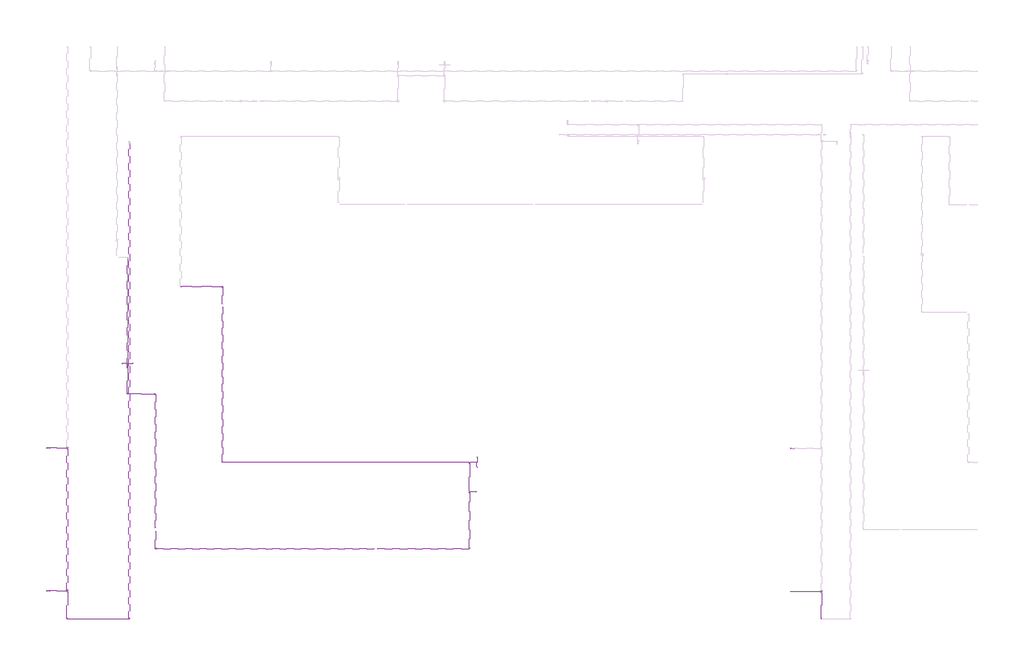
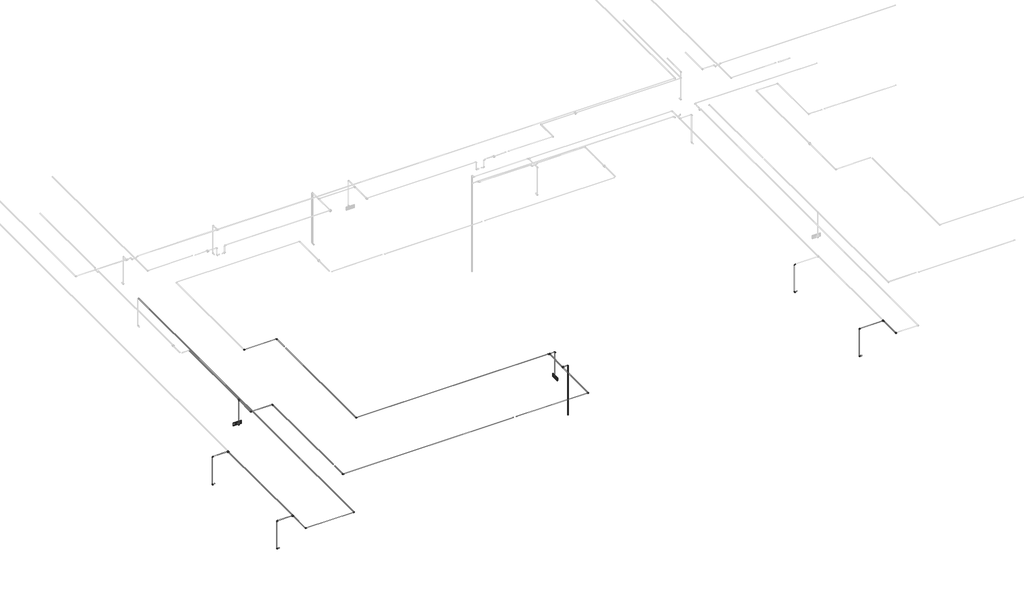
# One storey, part 1 of 13: 35 cable carrier segments, 27 cable carrier fittings, 2 alarms.
"""IFC4 building model written with IfcOpenShell, lengths in millimetres."""

from ifc_helpers import new_model, si_unit, point, frame, frame_2d, origin, place, context, project, spatial, circle_curve, trimmed, segment, composite_curve, outline, extrude, transform, mapped, element, save
from components import alarm_4b7e8fd8, cable_carrier_fitting_69f1a801, cable_carrier_fitting_8fd13dfc

model = new_model("IFC4")

# Units and contexts
model_context = context("Model", 3, world=origin())
ifc_project = project(units=[si_unit("LENGTHUNIT", "METRE", prefix="MILLI")], contexts=[model_context])

# Site, building, storey
site = spatial("IfcSite", under=ifc_project)
building = spatial("IfcBuilding", under=site)
storey = spatial("IfcBuildingStorey", under=building, Name="2 этаж", Elevation=3500.0)

# Alarms
placement = place(None, origin())
alarm_shape = alarm_4b7e8fd8(model_context)
element("IfcAlarm", 1, ObjectType="RBZ_Оповещатель_Световой_Рубеж_ОПОП1-R3(грань) : ОПОП 1-R3 \"Выход\"", at=placement, inside=storey, context=model_context, shape_type="MappedRepresentation", body=[
    mapped(alarm_shape, transform((-25412.3240021, -5342.3629895, 6000.0), x_axis=(0.0, -1.0, 0.0), y_axis=(0.0, 0.0, 1.0), z_axis=(-1.0, 0.0, 0.0))),
])
element("IfcAlarm", 2, ObjectType="RBZ_Оповещатель_Световой_Рубеж_ОПОП1-R3(грань) : ОПОП 1-R3 \"Выход\"", at=placement, inside=storey, context=model_context, shape_type="MappedRepresentation", body=[
    mapped(alarm_shape, transform((-35584.8240021, -2480.3629895, 6000.0), x_axis=(-1.0, 0.0, 0.0), y_axis=(0.0, 0.0, 1.0), z_axis=(0.0, 1.0, 0.0))),
])

# Cable carrier fittings
cable_carrier_fitting_shape = cable_carrier_fitting_69f1a801(model_context)
element("IfcCableCarrierFitting", 3, ObjectType="ADSK_Поворот_Минимальный размер : Неспецифицируемый", at=placement, inside=storey, context=model_context, shape_type="MappedRepresentation", body=[
    mapped(cable_carrier_fitting_shape, transform((-25639.8077923, -7865.3629895, 6984.65), x_axis=(1.0, 0.0, 0.0), y_axis=(0.0, 1.0, 0.0), z_axis=(0.0, 0.0, 1.0))),
])
element("IfcCableCarrierFitting", 4, ObjectType="ADSK_Поворот_Минимальный размер : Неспецифицируемый", at=placement, inside=storey, context=model_context, shape_type="MappedRepresentation", body=[
    mapped(cable_carrier_fitting_shape, transform((-25439.8077923, -6202.8629895, 6986.95), x_axis=(0.0, 0.0, 1.0), y_axis=(-1.0, 0.0, 0.0), z_axis=(0.0, -1.0, 0.0))),
])
element("IfcCableCarrierFitting", 5, ObjectType="ADSK_Поворот_Минимальный размер : Неспецифицируемый", at=placement, inside=storey, context=model_context, shape_type="MappedRepresentation", body=[
    mapped(cable_carrier_fitting_shape, transform((-25422.3240021, -5342.3629895, 6986.95), x_axis=(0.0, 0.0, 1.0), y_axis=(-1.0, 0.0, 0.0), z_axis=(0.0, -1.0, 0.0))),
])
element("IfcCableCarrierFitting", 6, ObjectType="ADSK_Поворот_Минимальный размер : Неспецифицируемый", at=placement, inside=storey, context=model_context, shape_type="MappedRepresentation", body=[
    mapped(cable_carrier_fitting_shape, transform((-34772.3240021, -7865.3629895, 6984.65), x_axis=(0.0, -1.0, 0.0), y_axis=(1.0, 0.0, 0.0), z_axis=(0.0, 0.0, 1.0))),
])
element("IfcCableCarrierFitting", 7, ObjectType="ADSK_Поворот_Минимальный размер : Неспецифицируемый", at=placement, inside=storey, context=model_context, shape_type="MappedRepresentation", body=[
    mapped(cable_carrier_fitting_shape, transform((-34772.3240021, -3358.8629895, 6984.65), x_axis=(0.0, 1.0, 0.0), y_axis=(-1.0, 0.0, 0.0), z_axis=(0.0, 0.0, 1.0))),
])
element("IfcCableCarrierFitting", 8, ObjectType="ADSK_Поворот_Минимальный размер : Неспецифицируемый", at=placement, inside=storey, context=model_context, shape_type="MappedRepresentation", body=[
    mapped(cable_carrier_fitting_shape, transform((-35584.8240021, -3358.8629895, 6984.65), x_axis=(0.0, -1.0, 0.0), y_axis=(1.0, 0.0, 0.0), z_axis=(0.0, 0.0, 1.0))),
])
element("IfcCableCarrierFitting", 9, ObjectType="ADSK_Поворот_Минимальный размер : Неспецифицируемый", at=placement, inside=storey, context=model_context, shape_type="MappedRepresentation", body=[
    mapped(cable_carrier_fitting_shape, transform((-32822.3240021, -5342.3629895, 6986.95), x_axis=(0.0, -1.0, 0.0), y_axis=(1.0, 0.0, 0.0), z_axis=(0.0, 0.0, 1.0))),
])
element("IfcCableCarrierFitting", 10, ObjectType="ADSK_Поворот_Минимальный размер : Неспецифицируемый", at=placement, inside=storey, context=model_context, shape_type="MappedRepresentation", body=[
    mapped(cable_carrier_fitting_shape, transform((-32822.3240021, -233.8629895, 6986.95), x_axis=(0.0, 1.0, 0.0), y_axis=(-1.0, 0.0, 0.0), z_axis=(0.0, 0.0, 1.0))),
])
element("IfcCableCarrierFitting", 11, ObjectType="ADSK_Поворот_Минимальный размер : Неспецифицируемый", at=placement, inside=storey, context=model_context, shape_type="MappedRepresentation", body=[
    mapped(cable_carrier_fitting_shape, transform((-34037.3240021, -233.8629895, 6986.95), x_axis=(0.0, -1.0, 0.0), y_axis=(1.0, 0.0, 0.0), z_axis=(0.0, 0.0, 1.0))),
])
element("IfcCableCarrierFitting", 12, ObjectType="ADSK_Поворот_Минимальный размер : Неспецифицируемый", at=placement, inside=storey, context=model_context, shape_type="MappedRepresentation", body=[
    mapped(cable_carrier_fitting_shape, transform((-37337.3240021, -9910.3629895, 6990.0), x_axis=(0.0, -1.0, 0.0), y_axis=(1.0, 0.0, 0.0), z_axis=(0.0, 0.0, 1.0))),
])
element("IfcCableCarrierFitting", 13, ObjectType="ADSK_Поворот_Минимальный размер : Неспецифицируемый", at=placement, inside=storey, context=model_context, shape_type="MappedRepresentation", body=[
    mapped(cable_carrier_fitting_shape, transform((-15397.3240021, -9910.3629895, 6990.0), x_axis=(0.0, -1.0, 0.0), y_axis=(1.0, 0.0, 0.0), z_axis=(0.0, 0.0, 1.0))),
])
element("IfcCableCarrierFitting", 14, ObjectType="ADSK_Поворот_Минимальный размер : Неспецифицируемый", at=placement, inside=storey, context=model_context, shape_type="MappedRepresentation", body=[
    mapped(cable_carrier_fitting_shape, transform((-16289.5238077, -9110.3629895, 5897.4861504), x_axis=(-1.0, 0.0, 0.0), y_axis=(0.0, 0.0, 1.0), z_axis=(0.0, 1.0, 0.0))),
])
element("IfcCableCarrierFitting", 15, ObjectType="ADSK_Поворот_Минимальный размер : Неспецифицируемый", at=placement, inside=storey, context=model_context, shape_type="MappedRepresentation", body=[
    mapped(cable_carrier_fitting_shape, transform((-16289.5238077, -9110.3629895, 6990.0), x_axis=(0.0, 0.0, 1.0), y_axis=(1.0, 0.0, 0.0), z_axis=(0.0, 1.0, 0.0))),
])
element("IfcCableCarrierFitting", 16, ObjectType="ADSK_Поворот_Минимальный размер : Неспецифицируемый", at=placement, inside=storey, context=model_context, shape_type="MappedRepresentation", body=[
    mapped(cable_carrier_fitting_shape, transform((-16289.5238077, -4942.8629895, 5897.4861504), x_axis=(-1.0, 0.0, 0.0), y_axis=(0.0, 0.0, 1.0), z_axis=(0.0, 1.0, 0.0))),
])
element("IfcCableCarrierFitting", 17, ObjectType="ADSK_Поворот_Минимальный размер : Неспецифицируемый", at=placement, inside=storey, context=model_context, shape_type="MappedRepresentation", body=[
    mapped(cable_carrier_fitting_shape, transform((-16289.5238077, -4942.8629895, 6990.0), x_axis=(0.0, 0.0, 1.0), y_axis=(1.0, 0.0, 0.0), z_axis=(0.0, 1.0, 0.0))),
])
element("IfcCableCarrierFitting", 18, ObjectType="ADSK_Поворот_Минимальный размер : Неспецифицируемый", at=placement, inside=storey, context=model_context, shape_type="MappedRepresentation", body=[
    mapped(cable_carrier_fitting_shape, transform((-37929.5238077, -9090.3629895, 5897.4861504), x_axis=(-1.0, 0.0, 0.0), y_axis=(0.0, 0.0, 1.0), z_axis=(0.0, 1.0, 0.0))),
])
element("IfcCableCarrierFitting", 19, ObjectType="ADSK_Поворот_Минимальный размер : Неспецифицируемый", at=placement, inside=storey, context=model_context, shape_type="MappedRepresentation", body=[
    mapped(cable_carrier_fitting_shape, transform((-37929.5238077, -9090.3629895, 6990.0), x_axis=(0.0, 0.0, 1.0), y_axis=(1.0, 0.0, 0.0), z_axis=(0.0, 1.0, 0.0))),
])
element("IfcCableCarrierFitting", 20, ObjectType="ADSK_Поворот_Минимальный размер : Неспецифицируемый", at=placement, inside=storey, context=model_context, shape_type="MappedRepresentation", body=[
    mapped(cable_carrier_fitting_shape, transform((-37929.5238077, -4930.3629895, 5897.4861504), x_axis=(-1.0, 0.0, 0.0), y_axis=(0.0, 0.0, 1.0), z_axis=(0.0, 1.0, 0.0))),
])
element("IfcCableCarrierFitting", 21, ObjectType="ADSK_Поворот_Минимальный размер : Неспецифицируемый", at=placement, inside=storey, context=model_context, shape_type="MappedRepresentation", body=[
    mapped(cable_carrier_fitting_shape, transform((-37929.5238077, -4930.3629895, 6990.0), x_axis=(0.0, 0.0, 1.0), y_axis=(1.0, 0.0, 0.0), z_axis=(0.0, 1.0, 0.0))),
])
element("IfcCableCarrierFitting", 22, ObjectType="ADSK_Поворот_Минимальный размер : Неспецифицируемый", at=placement, inside=storey, context=model_context, shape_type="MappedRepresentation", body=[
    mapped(cable_carrier_fitting_shape, transform((-35532.7240021, -9910.3629895, 6990.0), x_axis=(1.0, 0.0, 0.0), y_axis=(0.0, 1.0, 0.0), z_axis=(0.0, 0.0, 1.0))),
])
element("IfcCableCarrierFitting", 23, ObjectType="ADSK_Поворот_Минимальный размер : Неспецифицируемый", at=placement, inside=storey, context=model_context, shape_type="MappedRepresentation", body=[
    mapped(cable_carrier_fitting_shape, transform((-35584.8240021, -2577.5627951, 6000.0), x_axis=(0.0, -1.0, 0.0), y_axis=(0.0, 0.0, 1.0), z_axis=(-1.0, 0.0, 0.0))),
])
cable_carrier_fitting_2_shape = cable_carrier_fitting_8fd13dfc(model_context)
element("IfcCableCarrierFitting", 24, ObjectType="ADSK_Тройник : ПВХ", at=placement, inside=storey, context=model_context, shape_type="MappedRepresentation", body=[
    mapped(cable_carrier_fitting_2_shape, transform((-25639.8077923, -6202.8629895, 6986.95), x_axis=(0.0, 1.0, 0.0), y_axis=(-1.0, 0.0, 0.0), z_axis=(0.0, 0.0, 1.0))),
])
element("IfcCableCarrierFitting", 25, ObjectType="ADSK_Тройник : ПВХ", at=placement, inside=storey, context=model_context, shape_type="MappedRepresentation", body=[
    mapped(cable_carrier_fitting_2_shape, transform((-25639.8077923, -5342.3629895, 6986.95), x_axis=(1.0, 0.0, 0.0), y_axis=(0.0, 1.0, 0.0), z_axis=(0.0, 0.0, 1.0))),
])
element("IfcCableCarrierFitting", 26, ObjectType="ADSK_Тройник : ПВХ", at=placement, inside=storey, context=model_context, shape_type="MappedRepresentation", body=[
    mapped(cable_carrier_fitting_2_shape, transform((-15397.3240021, -9110.3629895, 6990.0), x_axis=(0.0, -1.0, 0.0), y_axis=(1.0, 0.0, 0.0), z_axis=(0.0, 0.0, 1.0))),
])
element("IfcCableCarrierFitting", 27, ObjectType="ADSK_Тройник : ПВХ", at=placement, inside=storey, context=model_context, shape_type="MappedRepresentation", body=[
    mapped(cable_carrier_fitting_2_shape, transform((-37337.3240021, -9090.3629895, 6990.0), x_axis=(0.0, -1.0, 0.0), y_axis=(1.0, 0.0, 0.0), z_axis=(0.0, 0.0, 1.0))),
])
element("IfcCableCarrierFitting", 28, ObjectType="ADSK_Тройник : ПВХ", at=placement, inside=storey, context=model_context, shape_type="MappedRepresentation", body=[
    mapped(cable_carrier_fitting_2_shape, transform((-37337.3240021, -4930.3629895, 6990.0), x_axis=(0.0, -1.0, 0.0), y_axis=(1.0, 0.0, 0.0), z_axis=(0.0, 0.0, 1.0))),
])
element("IfcCableCarrierFitting", 29, ObjectType="ADSK_Тройник : ПВХ", at=placement, inside=storey, context=model_context, shape_type="MappedRepresentation", body=[
    mapped(cable_carrier_fitting_2_shape, transform((-35584.8240021, -2577.5627951, 6984.65), x_axis=(0.0, 1.0, 0.0), y_axis=(0.0, 0.0, 1.0), z_axis=(1.0, 0.0, 0.0))),
])

# Cable carrier segments
element("IfcCableCarrierSegment", 30, ObjectType="Гофрированная труба", at=placement, inside=storey, context=model_context, shape_type="SweptSolid", body=[
    extrude(outline(composite_curve([segment(trimmed(circle_curve(frame_2d((-6202.8629895, 6986.95)), 10.0), [point((-6192.8629895, 6986.95))], [point((-6202.8629895, 6976.95))], False, "CARTESIAN"), True, "CONTINUOUS"), segment(trimmed(circle_curve(frame_2d((-6202.8629895, 6986.95)), 10.0), [point((-6202.8629895, 6976.95))], [point((-6212.8629895, 6986.95))], False, "CARTESIAN"), True, "CONTINUOUS"), segment(trimmed(circle_curve(frame_2d((-6202.8629895, 6986.95)), 10.0), [point((-6212.8629895, 6986.95))], [point((-6202.8629895, 6996.95))], False, "CARTESIAN"), True, "CONTINUOUS"), segment(trimmed(circle_curve(frame_2d((-6202.8629895, 6986.95)), 10.0), [point((-6202.8629895, 6996.95))], [point((-6192.8629895, 6986.95))], False, "CARTESIAN"), True, "CONTINUOUS")], self_intersect=False)), frame((-25609.8077923, 0.0, 0.0), z_axis=(1.0, 0.0, 0.0), x_axis=(0.0, 1.0, 0.0)), (0.0, 0.0, 1.0), 149.0),
])
element("IfcCableCarrierSegment", 31, ObjectType="Гофрированная труба", at=placement, inside=storey, context=model_context, shape_type="SweptSolid", body=[
    extrude(outline(composite_curve([segment(trimmed(circle_curve(frame_2d((-25439.8077923, -6202.8629895)), 10.0), [point((-25449.8077923, -6202.8629895))], [point((-25439.8077923, -6192.8629895))], False, "CARTESIAN"), True, "CONTINUOUS"), segment(trimmed(circle_curve(frame_2d((-25439.8077923, -6202.8629895)), 10.0), [point((-25439.8077923, -6192.8629895))], [point((-25429.8077923, -6202.8629895))], False, "CARTESIAN"), True, "CONTINUOUS"), segment(trimmed(circle_curve(frame_2d((-25439.8077923, -6202.8629895)), 10.0), [point((-25429.8077923, -6202.8629895))], [point((-25439.8077923, -6212.8629895))], False, "CARTESIAN"), True, "CONTINUOUS"), segment(trimmed(circle_curve(frame_2d((-25439.8077923, -6202.8629895)), 10.0), [point((-25439.8077923, -6212.8629895))], [point((-25449.8077923, -6202.8629895))], False, "CARTESIAN"), True, "CONTINUOUS")], self_intersect=False)), frame((0.0, 0.0, 5044.0), z_axis=(0.0, 0.0, 1.0), x_axis=(1.0, 0.0, 0.0)), (0.0, 0.0, 1.0), 1921.95),
])
element("IfcCableCarrierSegment", 32, ObjectType="Гофрированная труба", at=placement, inside=storey, context=model_context, shape_type="SweptSolid", body=[
    extrude(outline(composite_curve([segment(trimmed(circle_curve(frame_2d((-7865.3629895, 6984.65)), 10.0), [point((-7875.3629895, 6984.65))], [point((-7865.3629895, 6994.65))], False, "CARTESIAN"), True, "CONTINUOUS"), segment(trimmed(circle_curve(frame_2d((-7865.3629895, 6984.65)), 10.0), [point((-7865.3629895, 6994.65))], [point((-7855.3629895, 6984.65))], False, "CARTESIAN"), True, "CONTINUOUS"), segment(trimmed(circle_curve(frame_2d((-7865.3629895, 6984.65)), 10.0), [point((-7855.3629895, 6984.65))], [point((-7865.3629895, 6974.65))], False, "CARTESIAN"), True, "CONTINUOUS"), segment(trimmed(circle_curve(frame_2d((-7865.3629895, 6984.65)), 10.0), [point((-7865.3629895, 6974.65))], [point((-7875.3629895, 6984.65))], False, "CARTESIAN"), True, "CONTINUOUS")], self_intersect=False)), frame((-28325.8240021, 0.0, 0.0), z_axis=(1.0, 0.0, 0.0), x_axis=(0.0, 1.0, 0.0)), (0.0, 0.0, 1.0), 2665.0162098),
])
element("IfcCableCarrierSegment", 33, ObjectType="Гофрированная труба", at=placement, inside=storey, context=model_context, shape_type="SweptSolid", body=[
    extrude(outline(composite_curve([segment(trimmed(circle_curve(frame_2d((6986.95, -25639.8077923)), 10.0), [point((6986.95, -25629.8077923))], [point((6996.95, -25639.8077923))], False, "CARTESIAN"), True, "CONTINUOUS"), segment(trimmed(circle_curve(frame_2d((6986.95, -25639.8077923)), 10.0), [point((6996.95, -25639.8077923))], [point((6986.95, -25649.8077923))], False, "CARTESIAN"), True, "CONTINUOUS"), segment(trimmed(circle_curve(frame_2d((6986.95, -25639.8077923)), 10.0), [point((6986.95, -25649.8077923))], [point((6976.95, -25639.8077923))], False, "CARTESIAN"), True, "CONTINUOUS"), segment(trimmed(circle_curve(frame_2d((6986.95, -25639.8077923)), 10.0), [point((6976.95, -25639.8077923))], [point((6986.95, -25629.8077923))], False, "CARTESIAN"), True, "CONTINUOUS")], self_intersect=False)), frame((0.0, -6172.8629895, 0.0), z_axis=(0.0, 1.0, 0.0), x_axis=(0.0, 0.0, 1.0)), (0.0, 0.0, 1.0), 800.5),
])
element("IfcCableCarrierSegment", 34, ObjectType="Гофрированная труба", at=placement, inside=storey, context=model_context, shape_type="SweptSolid", body=[
    extrude(outline(composite_curve([segment(trimmed(circle_curve(frame_2d((0.0, 10.0)), 10.0), [point((0.0, 20.0))], [point((10.0, 10.0))], False, "CARTESIAN"), True, "CONTINUOUS"), segment(trimmed(circle_curve(frame_2d((0.0, 10.0)), 10.0), [point((10.0, 10.0))], [point((0.0, 0.0))], False, "CARTESIAN"), True, "CONTINUOUS"), segment(trimmed(circle_curve(frame_2d((0.0, 10.0)), 10.0), [point((0.0, 0.0))], [point((-10.0, 10.0))], False, "CARTESIAN"), True, "CONTINUOUS"), segment(trimmed(circle_curve(frame_2d((0.0, 10.0)), 10.0), [point((-10.0, 10.0))], [point((0.0, 20.0))], False, "CARTESIAN"), True, "CONTINUOUS")], self_intersect=False)), frame((-25649.8077923, -7844.3629895, 6984.65), z_axis=(0.0, 0.9999989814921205, 0.0014272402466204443), x_axis=(0.0, -0.0014272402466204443, 0.9999989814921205)), (0.0, 0.0, 1.0), 1611.5016413),
])
element("IfcCableCarrierSegment", 35, ObjectType="Гофрированная труба", at=placement, inside=storey, context=model_context, shape_type="SweptSolid", body=[
    extrude(outline(composite_curve([segment(trimmed(circle_curve(frame_2d((-5342.3629895, 6986.95)), 10.0), [point((-5352.3629895, 6986.95))], [point((-5342.3629895, 6996.95))], False, "CARTESIAN"), True, "CONTINUOUS"), segment(trimmed(circle_curve(frame_2d((-5342.3629895, 6986.95)), 10.0), [point((-5342.3629895, 6996.95))], [point((-5332.3629895, 6986.95))], False, "CARTESIAN"), True, "CONTINUOUS"), segment(trimmed(circle_curve(frame_2d((-5342.3629895, 6986.95)), 10.0), [point((-5332.3629895, 6986.95))], [point((-5342.3629895, 6976.95))], False, "CARTESIAN"), True, "CONTINUOUS"), segment(trimmed(circle_curve(frame_2d((-5342.3629895, 6986.95)), 10.0), [point((-5342.3629895, 6976.95))], [point((-5352.3629895, 6986.95))], False, "CARTESIAN"), True, "CONTINUOUS")], self_intersect=False)), frame((-32801.3240021, 0.0, 0.0), z_axis=(1.0, 0.0, 0.0), x_axis=(0.0, 1.0, 0.0)), (0.0, 0.0, 1.0), 7131.5162098),
])
element("IfcCableCarrierSegment", 36, ObjectType="Гофрированная труба", at=placement, inside=storey, context=model_context, shape_type="SweptSolid", body=[
    extrude(outline(composite_curve([segment(trimmed(circle_curve(frame_2d((-25422.3240021, -5342.3629895)), 10.0), [point((-25432.3240021, -5342.3629895))], [point((-25422.3240021, -5332.3629895))], False, "CARTESIAN"), True, "CONTINUOUS"), segment(trimmed(circle_curve(frame_2d((-25422.3240021, -5342.3629895)), 10.0), [point((-25422.3240021, -5332.3629895))], [point((-25412.3240021, -5342.3629895))], False, "CARTESIAN"), True, "CONTINUOUS"), segment(trimmed(circle_curve(frame_2d((-25422.3240021, -5342.3629895)), 10.0), [point((-25412.3240021, -5342.3629895))], [point((-25422.3240021, -5352.3629895))], False, "CARTESIAN"), True, "CONTINUOUS"), segment(trimmed(circle_curve(frame_2d((-25422.3240021, -5342.3629895)), 10.0), [point((-25422.3240021, -5352.3629895))], [point((-25432.3240021, -5342.3629895))], False, "CARTESIAN"), True, "CONTINUOUS")], self_intersect=False)), frame((0.0, 0.0, 6050.0), z_axis=(0.0, 0.0, 1.0), x_axis=(1.0, 0.0, 0.0)), (0.0, 0.0, 1.0), 915.95),
])
element("IfcCableCarrierSegment", 37, ObjectType="Гофрированная труба", at=placement, inside=storey, context=model_context, shape_type="SweptSolid", body=[
    extrude(outline(composite_curve([segment(trimmed(circle_curve(frame_2d((-5342.3629895, 6986.95)), 10.0), [point((-5332.3629895, 6986.95))], [point((-5342.3629895, 6976.95))], False, "CARTESIAN"), True, "CONTINUOUS"), segment(trimmed(circle_curve(frame_2d((-5342.3629895, 6986.95)), 10.0), [point((-5342.3629895, 6976.95))], [point((-5352.3629895, 6986.95))], False, "CARTESIAN"), True, "CONTINUOUS"), segment(trimmed(circle_curve(frame_2d((-5342.3629895, 6986.95)), 10.0), [point((-5352.3629895, 6986.95))], [point((-5342.3629895, 6996.95))], False, "CARTESIAN"), True, "CONTINUOUS"), segment(trimmed(circle_curve(frame_2d((-5342.3629895, 6986.95)), 10.0), [point((-5342.3629895, 6996.95))], [point((-5332.3629895, 6986.95))], False, "CARTESIAN"), True, "CONTINUOUS")], self_intersect=False)), frame((-25609.8077923, 0.0, 0.0), z_axis=(1.0, 0.0, 0.0), x_axis=(0.0, 1.0, 0.0)), (0.0, 0.0, 1.0), 166.4837902),
])
element("IfcCableCarrierSegment", 38, ObjectType="Гофрированная труба", at=placement, inside=storey, context=model_context, shape_type="SweptSolid", body=[
    extrude(outline(composite_curve([segment(trimmed(circle_curve(frame_2d((-7865.3629895, 6984.65)), 10.0), [point((-7855.3629895, 6984.65))], [point((-7865.3629895, 6974.65))], False, "CARTESIAN"), True, "CONTINUOUS"), segment(trimmed(circle_curve(frame_2d((-7865.3629895, 6984.65)), 10.0), [point((-7865.3629895, 6974.65))], [point((-7875.3629895, 6984.65))], False, "CARTESIAN"), True, "CONTINUOUS"), segment(trimmed(circle_curve(frame_2d((-7865.3629895, 6984.65)), 10.0), [point((-7875.3629895, 6984.65))], [point((-7865.3629895, 6994.65))], False, "CARTESIAN"), True, "CONTINUOUS"), segment(trimmed(circle_curve(frame_2d((-7865.3629895, 6984.65)), 10.0), [point((-7865.3629895, 6994.65))], [point((-7855.3629895, 6984.65))], False, "CARTESIAN"), True, "CONTINUOUS")], self_intersect=False)), frame((-34751.3240021, 0.0, 0.0), z_axis=(1.0, 0.0, 0.0), x_axis=(0.0, 1.0, 0.0)), (0.0, 0.0, 1.0), 6332.5),
])
element("IfcCableCarrierSegment", 39, ObjectType="Гофрированная труба", at=placement, inside=storey, context=model_context, shape_type="SweptSolid", body=[
    extrude(outline(composite_curve([segment(trimmed(circle_curve(frame_2d((6984.65, -34772.3240021)), 10.0), [point((6984.65, -34762.3240021))], [point((6994.65, -34772.3240021))], False, "CARTESIAN"), True, "CONTINUOUS"), segment(trimmed(circle_curve(frame_2d((6984.65, -34772.3240021)), 10.0), [point((6994.65, -34772.3240021))], [point((6984.65, -34782.3240021))], False, "CARTESIAN"), True, "CONTINUOUS"), segment(trimmed(circle_curve(frame_2d((6984.65, -34772.3240021)), 10.0), [point((6984.65, -34782.3240021))], [point((6974.65, -34772.3240021))], False, "CARTESIAN"), True, "CONTINUOUS"), segment(trimmed(circle_curve(frame_2d((6984.65, -34772.3240021)), 10.0), [point((6974.65, -34772.3240021))], [point((6984.65, -34762.3240021))], False, "CARTESIAN"), True, "CONTINUOUS")], self_intersect=False)), frame((0.0, -7844.3629895, 0.0), z_axis=(0.0, 1.0, 0.0), x_axis=(0.0, 0.0, 1.0)), (0.0, 0.0, 1.0), 492.5),
])
element("IfcCableCarrierSegment", 40, ObjectType="Гофрированная труба", at=placement, inside=storey, context=model_context, shape_type="SweptSolid", body=[
    extrude(outline(composite_curve([segment(trimmed(circle_curve(frame_2d((6984.65, -34772.3240021)), 10.0), [point((6984.65, -34762.3240021))], [point((6994.65, -34772.3240021))], False, "CARTESIAN"), True, "CONTINUOUS"), segment(trimmed(circle_curve(frame_2d((6984.65, -34772.3240021)), 10.0), [point((6994.65, -34772.3240021))], [point((6984.65, -34782.3240021))], False, "CARTESIAN"), True, "CONTINUOUS"), segment(trimmed(circle_curve(frame_2d((6984.65, -34772.3240021)), 10.0), [point((6984.65, -34782.3240021))], [point((6974.65, -34772.3240021))], False, "CARTESIAN"), True, "CONTINUOUS"), segment(trimmed(circle_curve(frame_2d((6984.65, -34772.3240021)), 10.0), [point((6974.65, -34772.3240021))], [point((6984.65, -34762.3240021))], False, "CARTESIAN"), True, "CONTINUOUS")], self_intersect=False)), frame((0.0, -7258.8629895, 0.0), z_axis=(0.0, 1.0, 0.0), x_axis=(0.0, 0.0, 1.0)), (0.0, 0.0, 1.0), 3879.0),
])
element("IfcCableCarrierSegment", 41, ObjectType="Гофрированная труба", at=placement, inside=storey, context=model_context, shape_type="SweptSolid", body=[
    extrude(outline(composite_curve([segment(trimmed(circle_curve(frame_2d((-3358.8629895, 6984.65)), 10.0), [point((-3348.8629895, 6984.65))], [point((-3358.8629895, 6974.65))], False, "CARTESIAN"), True, "CONTINUOUS"), segment(trimmed(circle_curve(frame_2d((-3358.8629895, 6984.65)), 10.0), [point((-3358.8629895, 6974.65))], [point((-3368.8629895, 6984.65))], False, "CARTESIAN"), True, "CONTINUOUS"), segment(trimmed(circle_curve(frame_2d((-3358.8629895, 6984.65)), 10.0), [point((-3368.8629895, 6984.65))], [point((-3358.8629895, 6994.65))], False, "CARTESIAN"), True, "CONTINUOUS"), segment(trimmed(circle_curve(frame_2d((-3358.8629895, 6984.65)), 10.0), [point((-3358.8629895, 6994.65))], [point((-3348.8629895, 6984.65))], False, "CARTESIAN"), True, "CONTINUOUS")], self_intersect=False)), frame((-35563.8240021, 0.0, 0.0), z_axis=(1.0, 0.0, 0.0), x_axis=(0.0, 1.0, 0.0)), (0.0, 0.0, 1.0), 770.5),
])
element("IfcCableCarrierSegment", 42, ObjectType="Гофрированная труба", at=placement, inside=storey, context=model_context, shape_type="SweptSolid", body=[
    extrude(outline(composite_curve([segment(trimmed(circle_curve(frame_2d((6986.95, -32822.3240021)), 10.0), [point((6986.95, -32832.3240021))], [point((6976.95, -32822.3240021))], False, "CARTESIAN"), True, "CONTINUOUS"), segment(trimmed(circle_curve(frame_2d((6986.95, -32822.3240021)), 10.0), [point((6976.95, -32822.3240021))], [point((6986.95, -32812.3240021))], False, "CARTESIAN"), True, "CONTINUOUS"), segment(trimmed(circle_curve(frame_2d((6986.95, -32822.3240021)), 10.0), [point((6986.95, -32812.3240021))], [point((6996.95, -32822.3240021))], False, "CARTESIAN"), True, "CONTINUOUS"), segment(trimmed(circle_curve(frame_2d((6986.95, -32822.3240021)), 10.0), [point((6996.95, -32822.3240021))], [point((6986.95, -32832.3240021))], False, "CARTESIAN"), True, "CONTINUOUS")], self_intersect=False)), frame((0.0, -5321.3629895, 0.0), z_axis=(0.0, 1.0, 0.0), x_axis=(0.0, 0.0, 1.0)), (0.0, 0.0, 1.0), 4494.5),
])
element("IfcCableCarrierSegment", 43, ObjectType="Гофрированная труба", at=placement, inside=storey, context=model_context, shape_type="SweptSolid", body=[
    extrude(outline(composite_curve([segment(trimmed(circle_curve(frame_2d((6986.95, -32822.3240021)), 10.0), [point((6986.95, -32812.3240021))], [point((6996.95, -32822.3240021))], False, "CARTESIAN"), True, "CONTINUOUS"), segment(trimmed(circle_curve(frame_2d((6986.95, -32822.3240021)), 10.0), [point((6996.95, -32822.3240021))], [point((6986.95, -32832.3240021))], False, "CARTESIAN"), True, "CONTINUOUS"), segment(trimmed(circle_curve(frame_2d((6986.95, -32822.3240021)), 10.0), [point((6986.95, -32832.3240021))], [point((6976.95, -32822.3240021))], False, "CARTESIAN"), True, "CONTINUOUS"), segment(trimmed(circle_curve(frame_2d((6986.95, -32822.3240021)), 10.0), [point((6976.95, -32822.3240021))], [point((6986.95, -32812.3240021))], False, "CARTESIAN"), True, "CONTINUOUS")], self_intersect=False)), frame((0.0, -733.8629895, 0.0), z_axis=(0.0, 1.0, 0.0), x_axis=(0.0, 0.0, 1.0)), (0.0, 0.0, 1.0), 479.0),
])
element("IfcCableCarrierSegment", 44, ObjectType="Гофрированная труба", at=placement, inside=storey, context=model_context, shape_type="SweptSolid", body=[
    extrude(outline(composite_curve([segment(trimmed(circle_curve(frame_2d((-233.8629895, 6986.95)), 10.0), [point((-223.8629895, 6986.95))], [point((-233.8629895, 6976.95))], False, "CARTESIAN"), True, "CONTINUOUS"), segment(trimmed(circle_curve(frame_2d((-233.8629895, 6986.95)), 10.0), [point((-233.8629895, 6976.95))], [point((-243.8629895, 6986.95))], False, "CARTESIAN"), True, "CONTINUOUS"), segment(trimmed(circle_curve(frame_2d((-233.8629895, 6986.95)), 10.0), [point((-243.8629895, 6986.95))], [point((-233.8629895, 6996.95))], False, "CARTESIAN"), True, "CONTINUOUS"), segment(trimmed(circle_curve(frame_2d((-233.8629895, 6986.95)), 10.0), [point((-233.8629895, 6996.95))], [point((-223.8629895, 6986.95))], False, "CARTESIAN"), True, "CONTINUOUS")], self_intersect=False)), frame((-34016.3240021, 0.0, 0.0), z_axis=(1.0, 0.0, 0.0), x_axis=(0.0, 1.0, 0.0)), (0.0, 0.0, 1.0), 1173.0),
])
element("IfcCableCarrierSegment", 45, ObjectType="Гофрированная труба", at=placement, inside=storey, context=model_context, shape_type="SweptSolid", body=[
    extrude(outline(composite_curve([segment(trimmed(circle_curve(frame_2d((-9910.3629895, 6990.0)), 10.0), [point((-9920.3629895, 6990.0))], [point((-9910.3629895, 7000.0))], False, "CARTESIAN"), True, "CONTINUOUS"), segment(trimmed(circle_curve(frame_2d((-9910.3629895, 6990.0)), 10.0), [point((-9910.3629895, 7000.0))], [point((-9900.3629895, 6990.0))], False, "CARTESIAN"), True, "CONTINUOUS"), segment(trimmed(circle_curve(frame_2d((-9910.3629895, 6990.0)), 10.0), [point((-9900.3629895, 6990.0))], [point((-9910.3629895, 6980.0))], False, "CARTESIAN"), True, "CONTINUOUS"), segment(trimmed(circle_curve(frame_2d((-9910.3629895, 6990.0)), 10.0), [point((-9910.3629895, 6980.0))], [point((-9920.3629895, 6990.0))], False, "CARTESIAN"), True, "CONTINUOUS")], self_intersect=False)), frame((-37316.3240021, 0.0, 0.0), z_axis=(1.0, 0.0, 0.0), x_axis=(0.0, 1.0, 0.0)), (0.0, 0.0, 1.0), 1762.6),
])
element("IfcCableCarrierSegment", 46, ObjectType="Гофрированная труба", at=placement, inside=storey, context=model_context, shape_type="SweptSolid", body=[
    extrude(outline(composite_curve([segment(trimmed(circle_curve(frame_2d((6990.0, -35532.7240021)), 10.0), [point((6990.0, -35522.7240021))], [point((7000.0, -35532.7240021))], False, "CARTESIAN"), True, "CONTINUOUS"), segment(trimmed(circle_curve(frame_2d((6990.0, -35532.7240021)), 10.0), [point((7000.0, -35532.7240021))], [point((6990.0, -35542.7240021))], False, "CARTESIAN"), True, "CONTINUOUS"), segment(trimmed(circle_curve(frame_2d((6990.0, -35532.7240021)), 10.0), [point((6990.0, -35542.7240021))], [point((6980.0, -35532.7240021))], False, "CARTESIAN"), True, "CONTINUOUS"), segment(trimmed(circle_curve(frame_2d((6990.0, -35532.7240021)), 10.0), [point((6980.0, -35532.7240021))], [point((6990.0, -35522.7240021))], False, "CARTESIAN"), True, "CONTINUOUS")], self_intersect=False)), frame((0.0, -9889.3629895, 0.0), z_axis=(0.0, 1.0, 0.0), x_axis=(0.0, 0.0, 1.0)), (0.0, 0.0, 1.0), 13865.1998056),
])
element("IfcCableCarrierSegment", 47, ObjectType="Гофрированная труба", at=placement, inside=storey, context=model_context, shape_type="SweptSolid", body=[
    extrude(outline(composite_curve([segment(trimmed(circle_curve(frame_2d((-9110.3629895, 6990.0)), 10.0), [point((-9100.3629895, 6990.0))], [point((-9110.3629895, 6980.0))], False, "CARTESIAN"), True, "CONTINUOUS"), segment(trimmed(circle_curve(frame_2d((-9110.3629895, 6990.0)), 10.0), [point((-9110.3629895, 6980.0))], [point((-9120.3629895, 6990.0))], False, "CARTESIAN"), True, "CONTINUOUS"), segment(trimmed(circle_curve(frame_2d((-9110.3629895, 6990.0)), 10.0), [point((-9120.3629895, 6990.0))], [point((-9110.3629895, 7000.0))], False, "CARTESIAN"), True, "CONTINUOUS"), segment(trimmed(circle_curve(frame_2d((-9110.3629895, 6990.0)), 10.0), [point((-9110.3629895, 7000.0))], [point((-9100.3629895, 6990.0))], False, "CARTESIAN"), True, "CONTINUOUS")], self_intersect=False)), frame((-16268.5238077, 0.0, 0.0), z_axis=(1.0, 0.0, 0.0), x_axis=(0.0, 1.0, 0.0)), (0.0, 0.0, 1.0), 841.1998056),
])
element("IfcCableCarrierSegment", 48, ObjectType="Гофрированная труба", at=placement, inside=storey, context=model_context, shape_type="SweptSolid", body=[
    extrude(outline(composite_curve([segment(trimmed(circle_curve(frame_2d((-9110.3629895, 5897.4861504)), 10.0), [point((-9100.3629895, 5897.4861504))], [point((-9110.3629895, 5887.4861504))], False, "CARTESIAN"), True, "CONTINUOUS"), segment(trimmed(circle_curve(frame_2d((-9110.3629895, 5897.4861504)), 10.0), [point((-9110.3629895, 5887.4861504))], [point((-9120.3629895, 5897.4861504))], False, "CARTESIAN"), True, "CONTINUOUS"), segment(trimmed(circle_curve(frame_2d((-9110.3629895, 5897.4861504)), 10.0), [point((-9120.3629895, 5897.4861504))], [point((-9110.3629895, 5907.4861504))], False, "CARTESIAN"), True, "CONTINUOUS"), segment(trimmed(circle_curve(frame_2d((-9110.3629895, 5897.4861504)), 10.0), [point((-9110.3629895, 5907.4861504))], [point((-9100.3629895, 5897.4861504))], False, "CARTESIAN"), True, "CONTINUOUS")], self_intersect=False)), frame((-16268.5238077, 0.0, 0.0), z_axis=(1.0, 0.0, 0.0), x_axis=(0.0, 1.0, 0.0)), (0.0, 0.0, 1.0), 76.1998056),
])
element("IfcCableCarrierSegment", 49, ObjectType="Гофрированная труба", at=placement, inside=storey, context=model_context, shape_type="SweptSolid", body=[
    extrude(outline(composite_curve([segment(trimmed(circle_curve(frame_2d((-16289.5238077, -9110.3629895)), 10.0), [point((-16299.5238077, -9110.3629895))], [point((-16289.5238077, -9100.3629895))], False, "CARTESIAN"), True, "CONTINUOUS"), segment(trimmed(circle_curve(frame_2d((-16289.5238077, -9110.3629895)), 10.0), [point((-16289.5238077, -9100.3629895))], [point((-16279.5238077, -9110.3629895))], False, "CARTESIAN"), True, "CONTINUOUS"), segment(trimmed(circle_curve(frame_2d((-16289.5238077, -9110.3629895)), 10.0), [point((-16279.5238077, -9110.3629895))], [point((-16289.5238077, -9120.3629895))], False, "CARTESIAN"), True, "CONTINUOUS"), segment(trimmed(circle_curve(frame_2d((-16289.5238077, -9110.3629895)), 10.0), [point((-16289.5238077, -9120.3629895))], [point((-16299.5238077, -9110.3629895))], False, "CARTESIAN"), True, "CONTINUOUS")], self_intersect=False)), frame((0.0, 0.0, 5918.4861504), z_axis=(0.0, 0.0, 1.0), x_axis=(1.0, 0.0, 0.0)), (0.0, 0.0, 1.0), 1050.5138496),
])
element("IfcCableCarrierSegment", 50, ObjectType="Гофрированная труба", at=placement, inside=storey, context=model_context, shape_type="SweptSolid", body=[
    extrude(outline(composite_curve([segment(trimmed(circle_curve(frame_2d((6990.0, -15397.3240021)), 10.0), [point((6990.0, -15387.3240021))], [point((7000.0, -15397.3240021))], False, "CARTESIAN"), True, "CONTINUOUS"), segment(trimmed(circle_curve(frame_2d((6990.0, -15397.3240021)), 10.0), [point((7000.0, -15397.3240021))], [point((6990.0, -15407.3240021))], False, "CARTESIAN"), True, "CONTINUOUS"), segment(trimmed(circle_curve(frame_2d((6990.0, -15397.3240021)), 10.0), [point((6990.0, -15407.3240021))], [point((6980.0, -15397.3240021))], False, "CARTESIAN"), True, "CONTINUOUS"), segment(trimmed(circle_curve(frame_2d((6990.0, -15397.3240021)), 10.0), [point((6980.0, -15397.3240021))], [point((6990.0, -15387.3240021))], False, "CARTESIAN"), True, "CONTINUOUS")], self_intersect=False)), frame((0.0, -9889.3629895, 0.0), z_axis=(0.0, 1.0, 0.0), x_axis=(0.0, 0.0, 1.0)), (0.0, 0.0, 1.0), 749.0),
])
element("IfcCableCarrierSegment", 51, ObjectType="Гофрированная труба", at=placement, inside=storey, context=model_context, shape_type="SweptSolid", body=[
    extrude(outline(composite_curve([segment(trimmed(circle_curve(frame_2d((-4942.8629895, 5897.4861504)), 10.0), [point((-4932.8629895, 5897.4861504))], [point((-4942.8629895, 5887.4861504))], False, "CARTESIAN"), True, "CONTINUOUS"), segment(trimmed(circle_curve(frame_2d((-4942.8629895, 5897.4861504)), 10.0), [point((-4942.8629895, 5887.4861504))], [point((-4952.8629895, 5897.4861504))], False, "CARTESIAN"), True, "CONTINUOUS"), segment(trimmed(circle_curve(frame_2d((-4942.8629895, 5897.4861504)), 10.0), [point((-4952.8629895, 5897.4861504))], [point((-4942.8629895, 5907.4861504))], False, "CARTESIAN"), True, "CONTINUOUS"), segment(trimmed(circle_curve(frame_2d((-4942.8629895, 5897.4861504)), 10.0), [point((-4942.8629895, 5907.4861504))], [point((-4932.8629895, 5897.4861504))], False, "CARTESIAN"), True, "CONTINUOUS")], self_intersect=False)), frame((-16268.5238077, 0.0, 0.0), z_axis=(1.0, 0.0, 0.0), x_axis=(0.0, 1.0, 0.0)), (0.0, 0.0, 1.0), 76.1998056),
])
element("IfcCableCarrierSegment", 52, ObjectType="Гофрированная труба", at=placement, inside=storey, context=model_context, shape_type="SweptSolid", body=[
    extrude(outline(composite_curve([segment(trimmed(circle_curve(frame_2d((-16289.5238077, -4942.8629895)), 10.0), [point((-16299.5238077, -4942.8629895))], [point((-16289.5238077, -4932.8629895))], False, "CARTESIAN"), True, "CONTINUOUS"), segment(trimmed(circle_curve(frame_2d((-16289.5238077, -4942.8629895)), 10.0), [point((-16289.5238077, -4932.8629895))], [point((-16279.5238077, -4942.8629895))], False, "CARTESIAN"), True, "CONTINUOUS"), segment(trimmed(circle_curve(frame_2d((-16289.5238077, -4942.8629895)), 10.0), [point((-16279.5238077, -4942.8629895))], [point((-16289.5238077, -4952.8629895))], False, "CARTESIAN"), True, "CONTINUOUS"), segment(trimmed(circle_curve(frame_2d((-16289.5238077, -4942.8629895)), 10.0), [point((-16289.5238077, -4952.8629895))], [point((-16299.5238077, -4942.8629895))], False, "CARTESIAN"), True, "CONTINUOUS")], self_intersect=False)), frame((0.0, 0.0, 5918.4861504), z_axis=(0.0, 0.0, 1.0), x_axis=(1.0, 0.0, 0.0)), (0.0, 0.0, 1.0), 1050.5138496),
])
element("IfcCableCarrierSegment", 53, ObjectType="Гофрированная труба", at=placement, inside=storey, context=model_context, shape_type="SweptSolid", body=[
    extrude(outline(composite_curve([segment(trimmed(circle_curve(frame_2d((-9090.3629895, 6990.0)), 10.0), [point((-9080.3629895, 6990.0))], [point((-9090.3629895, 6980.0))], False, "CARTESIAN"), True, "CONTINUOUS"), segment(trimmed(circle_curve(frame_2d((-9090.3629895, 6990.0)), 10.0), [point((-9090.3629895, 6980.0))], [point((-9100.3629895, 6990.0))], False, "CARTESIAN"), True, "CONTINUOUS"), segment(trimmed(circle_curve(frame_2d((-9090.3629895, 6990.0)), 10.0), [point((-9100.3629895, 6990.0))], [point((-9090.3629895, 7000.0))], False, "CARTESIAN"), True, "CONTINUOUS"), segment(trimmed(circle_curve(frame_2d((-9090.3629895, 6990.0)), 10.0), [point((-9090.3629895, 7000.0))], [point((-9080.3629895, 6990.0))], False, "CARTESIAN"), True, "CONTINUOUS")], self_intersect=False)), frame((-37908.5238077, 0.0, 0.0), z_axis=(1.0, 0.0, 0.0), x_axis=(0.0, 1.0, 0.0)), (0.0, 0.0, 1.0), 541.1998056),
])
element("IfcCableCarrierSegment", 54, ObjectType="Гофрированная труба", at=placement, inside=storey, context=model_context, shape_type="SweptSolid", body=[
    extrude(outline(composite_curve([segment(trimmed(circle_curve(frame_2d((-9090.3629895, 5897.4861504)), 10.0), [point((-9080.3629895, 5897.4861504))], [point((-9090.3629895, 5887.4861504))], False, "CARTESIAN"), True, "CONTINUOUS"), segment(trimmed(circle_curve(frame_2d((-9090.3629895, 5897.4861504)), 10.0), [point((-9090.3629895, 5887.4861504))], [point((-9100.3629895, 5897.4861504))], False, "CARTESIAN"), True, "CONTINUOUS"), segment(trimmed(circle_curve(frame_2d((-9090.3629895, 5897.4861504)), 10.0), [point((-9100.3629895, 5897.4861504))], [point((-9090.3629895, 5907.4861504))], False, "CARTESIAN"), True, "CONTINUOUS"), segment(trimmed(circle_curve(frame_2d((-9090.3629895, 5897.4861504)), 10.0), [point((-9090.3629895, 5907.4861504))], [point((-9080.3629895, 5897.4861504))], False, "CARTESIAN"), True, "CONTINUOUS")], self_intersect=False)), frame((-37908.5238077, 0.0, 0.0), z_axis=(1.0, 0.0, 0.0), x_axis=(0.0, 1.0, 0.0)), (0.0, 0.0, 1.0), 76.1998056),
])
element("IfcCableCarrierSegment", 55, ObjectType="Гофрированная труба", at=placement, inside=storey, context=model_context, shape_type="SweptSolid", body=[
    extrude(outline(composite_curve([segment(trimmed(circle_curve(frame_2d((-37929.5238077, -9090.3629895)), 10.0), [point((-37939.5238077, -9090.3629895))], [point((-37929.5238077, -9080.3629895))], False, "CARTESIAN"), True, "CONTINUOUS"), segment(trimmed(circle_curve(frame_2d((-37929.5238077, -9090.3629895)), 10.0), [point((-37929.5238077, -9080.3629895))], [point((-37919.5238077, -9090.3629895))], False, "CARTESIAN"), True, "CONTINUOUS"), segment(trimmed(circle_curve(frame_2d((-37929.5238077, -9090.3629895)), 10.0), [point((-37919.5238077, -9090.3629895))], [point((-37929.5238077, -9100.3629895))], False, "CARTESIAN"), True, "CONTINUOUS"), segment(trimmed(circle_curve(frame_2d((-37929.5238077, -9090.3629895)), 10.0), [point((-37929.5238077, -9100.3629895))], [point((-37939.5238077, -9090.3629895))], False, "CARTESIAN"), True, "CONTINUOUS")], self_intersect=False)), frame((0.0, 0.0, 5918.4861504), z_axis=(0.0, 0.0, 1.0), x_axis=(1.0, 0.0, 0.0)), (0.0, 0.0, 1.0), 1050.5138496),
])
element("IfcCableCarrierSegment", 56, ObjectType="Гофрированная труба", at=placement, inside=storey, context=model_context, shape_type="SweptSolid", body=[
    extrude(outline(composite_curve([segment(trimmed(circle_curve(frame_2d((6990.0, -37337.3240021)), 10.0), [point((6990.0, -37327.3240021))], [point((7000.0, -37337.3240021))], False, "CARTESIAN"), True, "CONTINUOUS"), segment(trimmed(circle_curve(frame_2d((6990.0, -37337.3240021)), 10.0), [point((7000.0, -37337.3240021))], [point((6990.0, -37347.3240021))], False, "CARTESIAN"), True, "CONTINUOUS"), segment(trimmed(circle_curve(frame_2d((6990.0, -37337.3240021)), 10.0), [point((6990.0, -37347.3240021))], [point((6980.0, -37337.3240021))], False, "CARTESIAN"), True, "CONTINUOUS"), segment(trimmed(circle_curve(frame_2d((6990.0, -37337.3240021)), 10.0), [point((6980.0, -37337.3240021))], [point((6990.0, -37327.3240021))], False, "CARTESIAN"), True, "CONTINUOUS")], self_intersect=False)), frame((0.0, -9889.3629895, 0.0), z_axis=(0.0, 1.0, 0.0), x_axis=(0.0, 0.0, 1.0)), (0.0, 0.0, 1.0), 769.0),
])
element("IfcCableCarrierSegment", 57, ObjectType="Гофрированная труба", at=placement, inside=storey, context=model_context, shape_type="SweptSolid", body=[
    extrude(outline(composite_curve([segment(trimmed(circle_curve(frame_2d((-4930.3629895, 6990.0)), 10.0), [point((-4920.3629895, 6990.0))], [point((-4930.3629895, 6980.0))], False, "CARTESIAN"), True, "CONTINUOUS"), segment(trimmed(circle_curve(frame_2d((-4930.3629895, 6990.0)), 10.0), [point((-4930.3629895, 6980.0))], [point((-4940.3629895, 6990.0))], False, "CARTESIAN"), True, "CONTINUOUS"), segment(trimmed(circle_curve(frame_2d((-4930.3629895, 6990.0)), 10.0), [point((-4940.3629895, 6990.0))], [point((-4930.3629895, 7000.0))], False, "CARTESIAN"), True, "CONTINUOUS"), segment(trimmed(circle_curve(frame_2d((-4930.3629895, 6990.0)), 10.0), [point((-4930.3629895, 7000.0))], [point((-4920.3629895, 6990.0))], False, "CARTESIAN"), True, "CONTINUOUS")], self_intersect=False)), frame((-37908.5238077, 0.0, 0.0), z_axis=(1.0, 0.0, 0.0), x_axis=(0.0, 1.0, 0.0)), (0.0, 0.0, 1.0), 541.1998056),
])
element("IfcCableCarrierSegment", 58, ObjectType="Гофрированная труба", at=placement, inside=storey, context=model_context, shape_type="SweptSolid", body=[
    extrude(outline(composite_curve([segment(trimmed(circle_curve(frame_2d((-4930.3629895, 5897.4861504)), 10.0), [point((-4920.3629895, 5897.4861504))], [point((-4930.3629895, 5887.4861504))], False, "CARTESIAN"), True, "CONTINUOUS"), segment(trimmed(circle_curve(frame_2d((-4930.3629895, 5897.4861504)), 10.0), [point((-4930.3629895, 5887.4861504))], [point((-4940.3629895, 5897.4861504))], False, "CARTESIAN"), True, "CONTINUOUS"), segment(trimmed(circle_curve(frame_2d((-4930.3629895, 5897.4861504)), 10.0), [point((-4940.3629895, 5897.4861504))], [point((-4930.3629895, 5907.4861504))], False, "CARTESIAN"), True, "CONTINUOUS"), segment(trimmed(circle_curve(frame_2d((-4930.3629895, 5897.4861504)), 10.0), [point((-4930.3629895, 5907.4861504))], [point((-4920.3629895, 5897.4861504))], False, "CARTESIAN"), True, "CONTINUOUS")], self_intersect=False)), frame((-37908.5238077, 0.0, 0.0), z_axis=(1.0, 0.0, 0.0), x_axis=(0.0, 1.0, 0.0)), (0.0, 0.0, 1.0), 76.1998056),
])
element("IfcCableCarrierSegment", 59, ObjectType="Гофрированная труба", at=placement, inside=storey, context=model_context, shape_type="SweptSolid", body=[
    extrude(outline(composite_curve([segment(trimmed(circle_curve(frame_2d((-37929.5238077, -4930.3629895)), 10.0), [point((-37939.5238077, -4930.3629895))], [point((-37929.5238077, -4920.3629895))], False, "CARTESIAN"), True, "CONTINUOUS"), segment(trimmed(circle_curve(frame_2d((-37929.5238077, -4930.3629895)), 10.0), [point((-37929.5238077, -4920.3629895))], [point((-37919.5238077, -4930.3629895))], False, "CARTESIAN"), True, "CONTINUOUS"), segment(trimmed(circle_curve(frame_2d((-37929.5238077, -4930.3629895)), 10.0), [point((-37919.5238077, -4930.3629895))], [point((-37929.5238077, -4940.3629895))], False, "CARTESIAN"), True, "CONTINUOUS"), segment(trimmed(circle_curve(frame_2d((-37929.5238077, -4930.3629895)), 10.0), [point((-37929.5238077, -4940.3629895))], [point((-37939.5238077, -4930.3629895))], False, "CARTESIAN"), True, "CONTINUOUS")], self_intersect=False)), frame((0.0, 0.0, 5918.4861504), z_axis=(0.0, 0.0, 1.0), x_axis=(1.0, 0.0, 0.0)), (0.0, 0.0, 1.0), 1050.5138496),
])
element("IfcCableCarrierSegment", 60, ObjectType="Гофрированная труба", at=placement, inside=storey, context=model_context, shape_type="SweptSolid", body=[
    extrude(outline(composite_curve([segment(trimmed(circle_curve(frame_2d((6990.0, -37337.3240021)), 10.0), [point((6990.0, -37327.3240021))], [point((7000.0, -37337.3240021))], False, "CARTESIAN"), True, "CONTINUOUS"), segment(trimmed(circle_curve(frame_2d((6990.0, -37337.3240021)), 10.0), [point((7000.0, -37337.3240021))], [point((6990.0, -37347.3240021))], False, "CARTESIAN"), True, "CONTINUOUS"), segment(trimmed(circle_curve(frame_2d((6990.0, -37337.3240021)), 10.0), [point((6990.0, -37347.3240021))], [point((6980.0, -37337.3240021))], False, "CARTESIAN"), True, "CONTINUOUS"), segment(trimmed(circle_curve(frame_2d((6990.0, -37337.3240021)), 10.0), [point((6980.0, -37337.3240021))], [point((6990.0, -37327.3240021))], False, "CARTESIAN"), True, "CONTINUOUS")], self_intersect=False)), frame((0.0, -9060.3629895, 0.0), z_axis=(0.0, 1.0, 0.0), x_axis=(0.0, 0.0, 1.0)), (0.0, 0.0, 1.0), 4100.0),
])
element("IfcCableCarrierSegment", 61, ObjectType="Гофрированная труба", at=placement, inside=storey, context=model_context, shape_type="SweptSolid", body=[
    extrude(outline(composite_curve([segment(trimmed(circle_curve(frame_2d((6984.65, -35584.8240021)), 10.0), [point((6984.65, -35594.8240021))], [point((6974.65, -35584.8240021))], False, "CARTESIAN"), True, "CONTINUOUS"), segment(trimmed(circle_curve(frame_2d((6984.65, -35584.8240021)), 10.0), [point((6974.65, -35584.8240021))], [point((6984.65, -35574.8240021))], False, "CARTESIAN"), True, "CONTINUOUS"), segment(trimmed(circle_curve(frame_2d((6984.65, -35584.8240021)), 10.0), [point((6984.65, -35574.8240021))], [point((6994.65, -35584.8240021))], False, "CARTESIAN"), True, "CONTINUOUS"), segment(trimmed(circle_curve(frame_2d((6984.65, -35584.8240021)), 10.0), [point((6994.65, -35584.8240021))], [point((6984.65, -35594.8240021))], False, "CARTESIAN"), True, "CONTINUOUS")], self_intersect=False)), frame((0.0, -2547.5627951, 0.0), z_axis=(0.0, 1.0, 0.0), x_axis=(0.0, 0.0, 1.0)), (0.0, 0.0, 1.0), 3146.1998056),
])
element("IfcCableCarrierSegment", 62, ObjectType="Гофрированная труба", at=placement, inside=storey, context=model_context, shape_type="SweptSolid", body=[
    extrude(outline(composite_curve([segment(trimmed(circle_curve(frame_2d((6000.0, -35584.8240021)), 10.0), [point((6000.0, -35594.8240021))], [point((5990.0, -35584.8240021))], False, "CARTESIAN"), True, "CONTINUOUS"), segment(trimmed(circle_curve(frame_2d((6000.0, -35584.8240021)), 10.0), [point((5990.0, -35584.8240021))], [point((6000.0, -35574.8240021))], False, "CARTESIAN"), True, "CONTINUOUS"), segment(trimmed(circle_curve(frame_2d((6000.0, -35584.8240021)), 10.0), [point((6000.0, -35574.8240021))], [point((6010.0, -35584.8240021))], False, "CARTESIAN"), True, "CONTINUOUS"), segment(trimmed(circle_curve(frame_2d((6000.0, -35584.8240021)), 10.0), [point((6010.0, -35584.8240021))], [point((6000.0, -35594.8240021))], False, "CARTESIAN"), True, "CONTINUOUS")], self_intersect=False)), frame((0.0, -2556.5627951, 0.0), z_axis=(0.0, 1.0, 0.0), x_axis=(0.0, 0.0, 1.0)), (0.0, 0.0, 1.0), 76.1998056),
])
element("IfcCableCarrierSegment", 63, ObjectType="Гофрированная труба", at=placement, inside=storey, context=model_context, shape_type="SweptSolid", body=[
    extrude(outline(composite_curve([segment(trimmed(circle_curve(frame_2d((-35584.8240021, -2577.5627951)), 10.0), [point((-35594.8240021, -2577.5627951))], [point((-35584.8240021, -2567.5627951))], False, "CARTESIAN"), True, "CONTINUOUS"), segment(trimmed(circle_curve(frame_2d((-35584.8240021, -2577.5627951)), 10.0), [point((-35584.8240021, -2567.5627951))], [point((-35574.8240021, -2577.5627951))], False, "CARTESIAN"), True, "CONTINUOUS"), segment(trimmed(circle_curve(frame_2d((-35584.8240021, -2577.5627951)), 10.0), [point((-35574.8240021, -2577.5627951))], [point((-35584.8240021, -2587.5627951))], False, "CARTESIAN"), True, "CONTINUOUS"), segment(trimmed(circle_curve(frame_2d((-35584.8240021, -2577.5627951)), 10.0), [point((-35584.8240021, -2587.5627951))], [point((-35594.8240021, -2577.5627951))], False, "CARTESIAN"), True, "CONTINUOUS")], self_intersect=False)), frame((0.0, 0.0, 6021.0), z_axis=(0.0, 0.0, 1.0), x_axis=(1.0, 0.0, 0.0)), (0.0, 0.0, 1.0), 933.65),
])
element("IfcCableCarrierSegment", 64, ObjectType="Гофрированная труба", at=placement, inside=storey, context=model_context, shape_type="SweptSolid", body=[
    extrude(outline(composite_curve([segment(trimmed(circle_curve(frame_2d((6984.65, -35584.8240021)), 10.0), [point((6984.65, -35574.8240021))], [point((6994.65, -35584.8240021))], False, "CARTESIAN"), True, "CONTINUOUS"), segment(trimmed(circle_curve(frame_2d((6984.65, -35584.8240021)), 10.0), [point((6994.65, -35584.8240021))], [point((6984.65, -35594.8240021))], False, "CARTESIAN"), True, "CONTINUOUS"), segment(trimmed(circle_curve(frame_2d((6984.65, -35584.8240021)), 10.0), [point((6984.65, -35594.8240021))], [point((6974.65, -35584.8240021))], False, "CARTESIAN"), True, "CONTINUOUS"), segment(trimmed(circle_curve(frame_2d((6984.65, -35584.8240021)), 10.0), [point((6974.65, -35584.8240021))], [point((6984.65, -35574.8240021))], False, "CARTESIAN"), True, "CONTINUOUS")], self_intersect=False)), frame((0.0, -3337.8629895, 0.0), z_axis=(0.0, 1.0, 0.0), x_axis=(0.0, 0.0, 1.0)), (0.0, 0.0, 1.0), 730.3001944),
])

save(model, "model.ifc")
